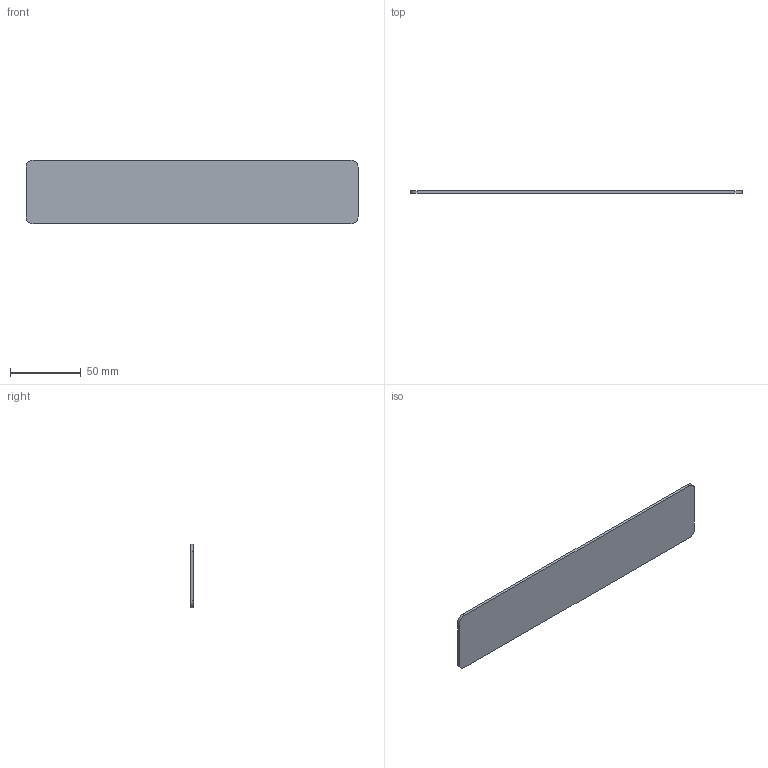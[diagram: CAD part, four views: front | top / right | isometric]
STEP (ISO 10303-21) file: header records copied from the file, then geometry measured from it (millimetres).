
FILE_DESCRIPTION (( 'STEP AP214' ), '1' );
FILE_NAME ('MONO_038-p112_01.STEP', '2025-10-01T01:40:07', ( '' ), ( '' ), 'SwSTEP 2.0', 'SolidWorks 2024', '' );
FILE_SCHEMA (( 'AUTOMOTIVE_DESIGN' ));
Length unit declared in the file: millimetre
Products named in the file (1): MONO_038-p112_01
Bounding box: 234 x 2 x 45 mm (x, y, z)
Volume: 21017.1 mm3; surface area: 22115.9 mm2
Topology: 1 solids, 1 shells, 10 faces, 24 edges, 16 vertices
Faces by surface type: plane 6, cylinder 4
Entity records: 319 total; most frequent: DIRECTION 54, CARTESIAN_POINT 51, ORIENTED_EDGE 48, EDGE_CURVE 24, AXIS2_PLACEMENT_3D 19, LINE 16, VECTOR 16, VERTEX_POINT 16
